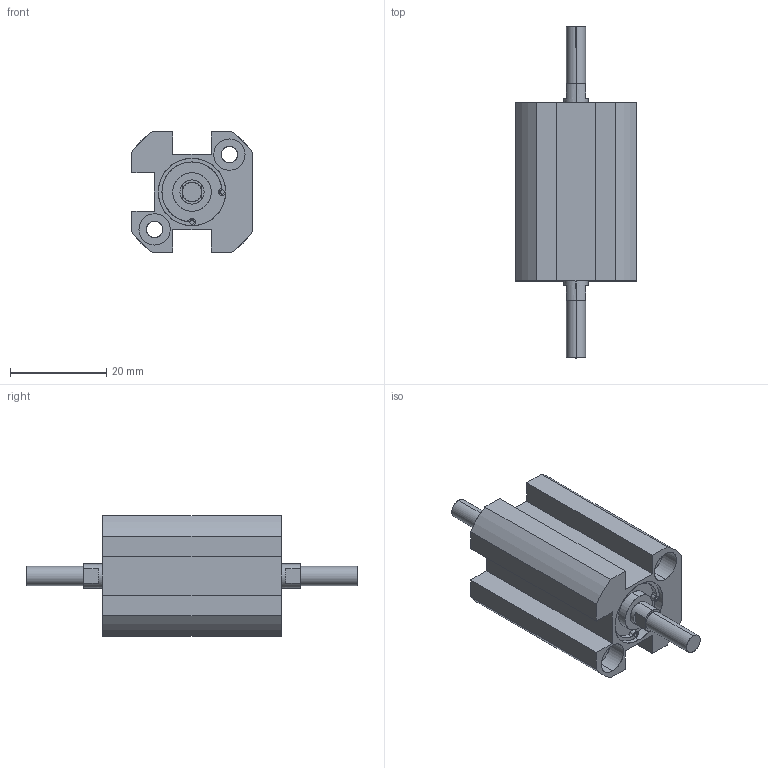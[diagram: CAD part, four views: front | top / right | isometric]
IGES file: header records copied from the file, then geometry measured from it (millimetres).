
Start section: SolidWorks IGES file using analytic representation for surfaces
Global section: file name: C:\Users\Toshiba\Desktop\XC#M7-10D-10.IGS; native system: SolidWorks 2014; preprocessor: SolidWorks 2014; author: Toshiba; date: 160523.165345; units: millimetre
Bounding box: 25 x 69 x 25 mm (x, y, z)
Surface area: 7304.9 mm2 (no closed solid volume)
Topology: 0 solids, 0 shells, 108 faces, 1780 edges, 1776 vertices
Faces by surface type: revolution 62, bspline 46
